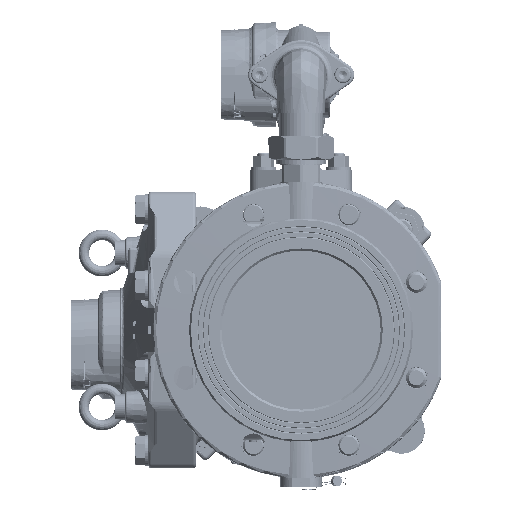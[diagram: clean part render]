
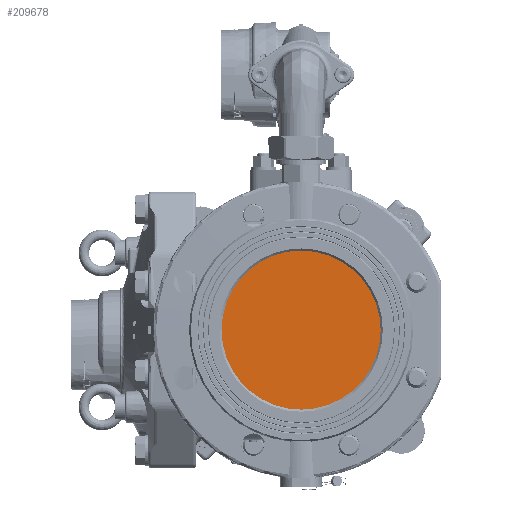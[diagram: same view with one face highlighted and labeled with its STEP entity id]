
A CAD part, left-side view. The second image highlights one B-rep face of the part: STEP entity #209678.
In plain terms, the highlighted planar face has unit normal (-1, 0, 0).
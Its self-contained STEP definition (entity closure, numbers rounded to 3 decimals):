
#5088 = AXIS2_PLACEMENT_3D ( 'NONE', #48743, #150979, #408531 ) ;
#5229 = CARTESIAN_POINT ( 'NONE',  ( -148., 0., 0. ) ) ;
#23159 = FACE_OUTER_BOUND ( 'NONE', #376454, .T. ) ;
#42115 = VERTEX_POINT ( 'NONE', #215336 ) ;
#48743 = CARTESIAN_POINT ( 'NONE',  ( -148., 0., 0. ) ) ;
#71111 = DIRECTION ( 'NONE',  ( 1., 0., 0. ) ) ;
#79302 = AXIS2_PLACEMENT_3D ( 'NONE', #5229, #71111, #103054 ) ;
#81067 = EDGE_CURVE ( 'NONE', #131961, #42115, #215207, .T. ) ;
#103054 = DIRECTION ( 'NONE',  ( 0., 1., 0. ) ) ;
#115782 = ORIENTED_EDGE ( 'NONE', *, *, #222956, .F. ) ;
#131961 = VERTEX_POINT ( 'NONE', #397511 ) ;
#150979 = DIRECTION ( 'NONE',  ( 1., 0., 0. ) ) ;
#208144 = CIRCLE ( 'NONE', #310091, 76.5 ) ;
#209678 = ADVANCED_FACE ( 'NONE', ( #23159 ), #219005, .F. ) ;
#215207 = CIRCLE ( 'NONE', #79302, 76.5 ) ;
#215336 = CARTESIAN_POINT ( 'NONE',  ( -148., 76.5, 0. ) ) ;
#219005 = PLANE ( 'NONE',  #5088 ) ;
#220436 = CARTESIAN_POINT ( 'NONE',  ( -148., 0., 0. ) ) ;
#222956 = EDGE_CURVE ( 'NONE', #42115, #131961, #208144, .T. ) ;
#248373 = DIRECTION ( 'NONE',  ( 1., 0., 0. ) ) ;
#285335 = ORIENTED_EDGE ( 'NONE', *, *, #81067, .F. ) ;
#310091 = AXIS2_PLACEMENT_3D ( 'NONE', #220436, #248373, #350339 ) ;
#350339 = DIRECTION ( 'NONE',  ( 0., 1., 0. ) ) ;
#376454 = EDGE_LOOP ( 'NONE', ( #115782, #285335 ) ) ;
#397511 = CARTESIAN_POINT ( 'NONE',  ( -148., -76.5, 0. ) ) ;
#408531 = DIRECTION ( 'NONE',  ( 0., 1., 0. ) ) ;
